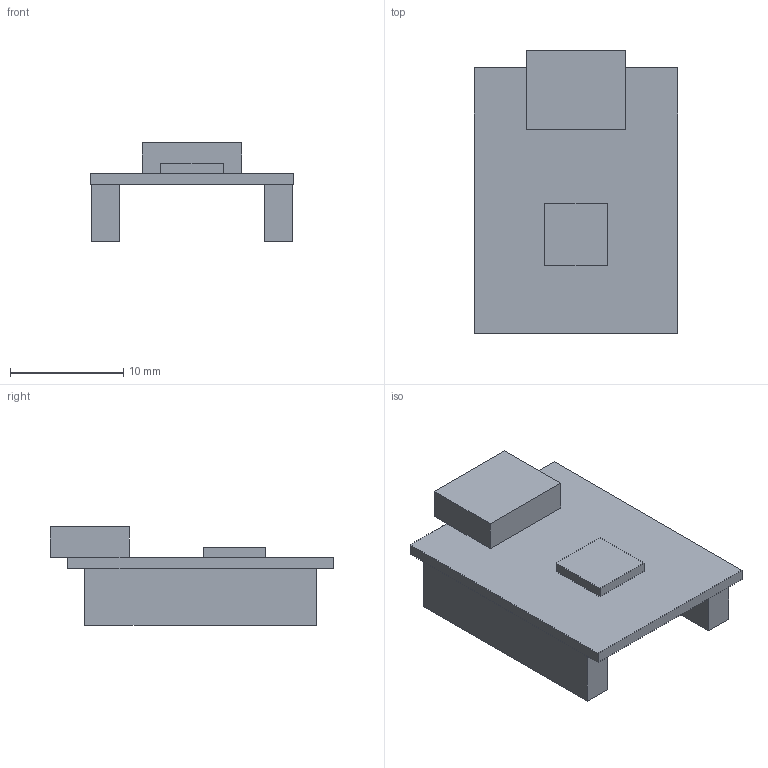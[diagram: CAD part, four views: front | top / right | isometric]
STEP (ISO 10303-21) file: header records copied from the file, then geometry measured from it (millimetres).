
FILE_DESCRIPTION(('Open CASCADE Model'),'2;1');
FILE_NAME('Open CASCADE Shape Model','2026-10-01T17:03:59',('Author'),( 'Open CASCADE'),'Open CASCADE STEP processor 7.9','Open CASCADE 7.9' ,'Unknown');
FILE_SCHEMA(('AUTOMOTIVE_DESIGN { 1 0 10303 214 1 1 1 1 }'));
Length unit declared in the file: millimetre
Products named in the file (6): Open CASCADE STEP translator 7.9 1; Open CASCADE STEP translator 7.9 1.1; Open CASCADE STEP translator 7.9 1.2; Open CASCADE STEP translator 7.9 1.3; Open CASCADE STEP translator 7.9 1.4; Open CASCADE STEP translator 7.9 1.5
Assembly tree (5 placements, depth 2):
  Open CASCADE STEP translator 7.9 1
    Open CASCADE STEP translator 7.9 1.1
    Open CASCADE STEP translator 7.9 1.2
    Open CASCADE STEP translator 7.9 1.3
    Open CASCADE STEP translator 7.9 1.4
    Open CASCADE STEP translator 7.9 1.5
Bounding box: 18 x 25.05 x 8.7 mm (x, y, z)
Volume: 1134.2 mm3; surface area: 1887.4 mm2
Topology: 5 solids, 5 shells, 30 faces, 60 edges, 40 vertices
Faces by surface type: plane 30
Entity records: 1636 total; most frequent: CARTESIAN_POINT 256, DIRECTION 252, LINE 180, VECTOR 180, ORIENTED_EDGE 120, PCURVE 120, DEFINITIONAL_REPRESENTATION 120, EDGE_CURVE 60
